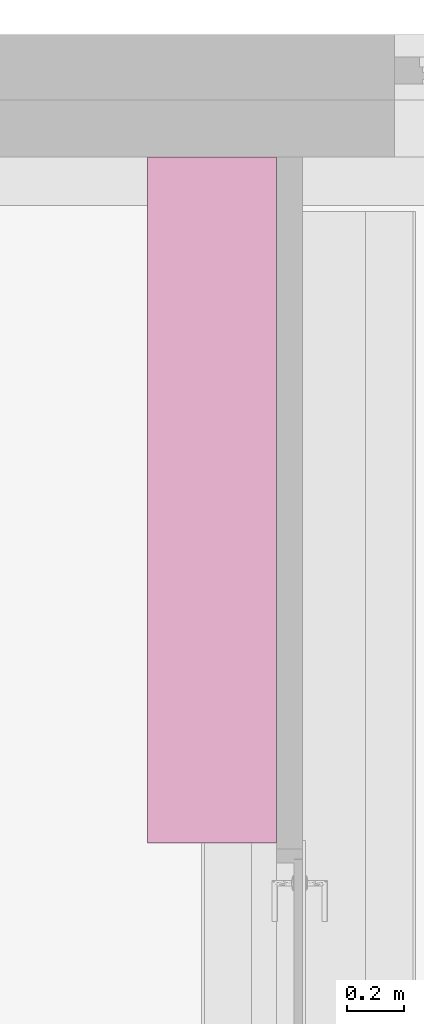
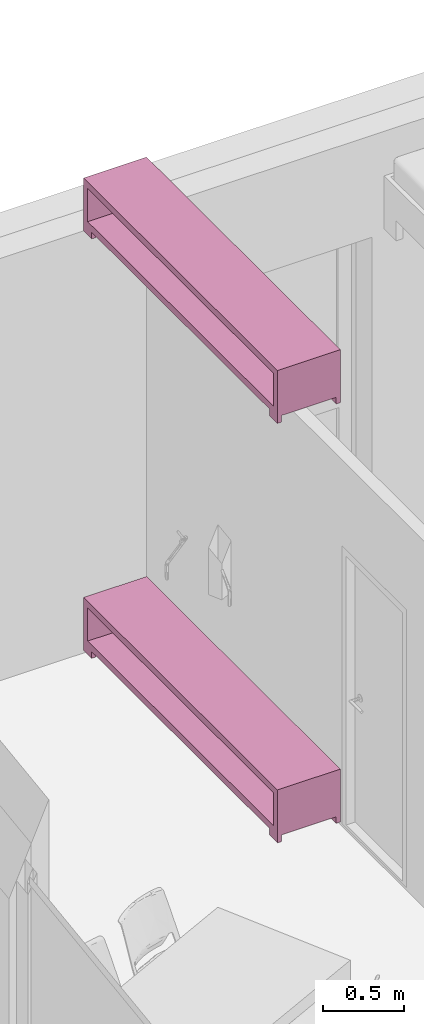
# One storey, part 67 of 125: 2 furnishings.
"""IFC2X3 building model written with IfcOpenShell, lengths in millimetres."""

import ifcopenshell
import ifcopenshell.guid

model = None  # the IFC model being written
_history = None  # IfcOwnerHistory: only IFC2X3 demands one
_inside = {}  # id of a spatial element -> (the spatial element, [elements in it])
_under = {}  # id of a project, library or spatial element -> (it, [spatial elements below it])
_declared = {}  # id of a project -> (the project, [libraries it declares])
_typed = {}  # id of a type object -> (the type object, [elements of that type])
_made_of = {}  # id of a material, layer set ... -> (it, [elements and type objects made of it])


def new_model(schema):
    """Start an empty IFC model of exactly this schema.

    Asked for "IFC4X3", IfcOpenShell would pick the latest addendum, in which some entities
    have other attributes; the version numbers below select the first issue.
    IFC2X3 requires an IfcOwnerHistory on every rooted entity: one is made here for all.
    """
    global model, _history
    if schema == "IFC4X3":
        model = ifcopenshell.file(schema_version=(4, 3, 0, 0))
    else:
        model = ifcopenshell.file(schema=schema)
    _inside.clear()
    _under.clear()
    _declared.clear()
    _typed.clear()
    _made_of.clear()
    _history = None
    if model.schema == "IFC2X3":
        org = make("IfcOrganization", Name="unknown")
        user = make(
            "IfcPersonAndOrganization",
            ThePerson=make("IfcPerson", FamilyName="unknown"),
            TheOrganization=org,
        )
        app = make(
            "IfcApplication",
            ApplicationDeveloper=org,
            Version="unknown",
            ApplicationFullName="unknown",
            ApplicationIdentifier="unknown",
        )
        _history = make(
            "IfcOwnerHistory",
            OwningUser=user,
            OwningApplication=app,
            ChangeAction="ADDED",
            CreationDate=0,
        )
    return model


def make(cls, **values):
    """One entity of the class cls with the attributes given. An attribute that is None is left unset."""
    return model.create_entity(
        cls, **{name: value for name, value in values.items() if value is not None}
    )


def entity(cls, *values):
    """Any entity or typed value of the class cls, its attributes in the order of the schema. None: left unset."""
    e = model.create_entity(cls)
    for i, value in enumerate(values):
        if value is not None:
            e[i] = value
    return e


def rooted(cls, **values):
    """An entity with a GlobalId (a new one), such as an element, a storey or a relation."""
    return make(cls, GlobalId=ifcopenshell.guid.new(), OwnerHistory=_history, **values)


def si_unit(unit_type, name, prefix=None):
    """IfcSIUnit, for example si_unit("LENGTHUNIT", "METRE", prefix="MILLI")."""
    return make("IfcSIUnit", UnitType=unit_type, Prefix=prefix, Name=name)


def converted_unit(unit_type, name, factor, base, dimensions=None, offset=None):
    """IfcConversionBasedUnit, such as the inch: factor (a typed value) times the base unit."""
    return make(
        "IfcConversionBasedUnit"
        if offset is None
        else "IfcConversionBasedUnitWithOffset",
        ConversionOffset=offset,
        Dimensions=None
        if dimensions is None
        else entity("IfcDimensionalExponents", *dimensions),
        UnitType=unit_type,
        Name=name,
        ConversionFactor=make(
            "IfcMeasureWithUnit", ValueComponent=factor, UnitComponent=base
        ),
    )


def assignment(units):
    """IfcUnitAssignment: the units of a project."""
    return None if units is None else make("IfcUnitAssignment", Units=units)


def point(xyz):
    """IfcCartesianPoint."""
    return None if xyz is None else make("IfcCartesianPoint", Coordinates=xyz)


def direction(xyz):
    """IfcDirection."""
    return None if xyz is None else make("IfcDirection", DirectionRatios=xyz)


def frame(location, z_axis=None, x_axis=None):
    """IfcAxis2Placement3D, a coordinate frame: its origin and axes. An axis left out is left unset."""
    return make(
        "IfcAxis2Placement3D",
        Location=point(location),
        Axis=direction(z_axis),
        RefDirection=direction(x_axis),
    )


def frame_2d(location, x_axis=None):
    """IfcAxis2Placement2D, a coordinate frame in the plane: its origin and x axis."""
    return make(
        "IfcAxis2Placement2D", Location=point(location), RefDirection=direction(x_axis)
    )


def origin():
    """The frame at (0, 0, 0) with its axes left unset."""
    return frame((0.0, 0.0, 0.0))


def origin_2d_with_axis():
    """The frame at (0, 0) in the plane with the x axis (1, 0) written out."""
    return frame_2d((0.0, 0.0), x_axis=(1.0, 0.0))


def place(relative_to, where):
    """IfcLocalPlacement: puts the frame where relative to a parent placement (None: the world)."""
    return make(
        "IfcLocalPlacement", PlacementRelTo=relative_to, RelativePlacement=where
    )


def context(
    kind, dimensions, precision=None, world=None, true_north=None, identifier=None
):
    """IfcGeometricRepresentationContext, for example the 3D "Model" context."""
    return make(
        "IfcGeometricRepresentationContext",
        ContextIdentifier=identifier,
        ContextType=kind,
        CoordinateSpaceDimension=dimensions,
        Precision=precision,
        WorldCoordinateSystem=world,
        TrueNorth=true_north,
    )


def subcontext(parent, identifier, kind, view, scale=None):
    """IfcGeometricRepresentationSubContext, for example "Body" below "Model"."""
    return make(
        "IfcGeometricRepresentationSubContext",
        ContextIdentifier=identifier,
        ContextType=kind,
        ParentContext=parent,
        TargetScale=scale,
        TargetView=view,
    )


def project(units=None, contexts=None):
    """IfcProject with its units and contexts."""
    return rooted(
        "IfcProject",
        Name="project",
        RepresentationContexts=contexts,
        UnitsInContext=assignment(units),
    )


def spatial(cls, under=None, at=None, **own):
    """A site, building, storey or space (cls), placed at a placement, below another one or the project."""
    s = rooted(cls, ObjectPlacement=at, **own)
    if under is not None:
        _under.setdefault(under.id(), (under, []))[1].append(s)
    return s


def polyline(points):
    """IfcPolyline through the points."""
    return make("IfcPolyline", Points=[point(p) for p in points])


def profile(cls, at=None, kind="AREA", **sizes):
    """A parametric profile (cls). Its sizes go by their IFC names, for example OverallWidth=200.0."""
    return make(cls, ProfileType=kind, Position=at, **sizes)


def rectangle(**sizes):
    """IfcRectangleProfileDef."""
    return profile("IfcRectangleProfileDef", **sizes)


def outline(outer, holes=None, kind="AREA"):
    """IfcArbitraryClosedProfileDef: a profile drawn as a closed curve; with holes, ...WithVoids."""
    if holes is None:
        return make("IfcArbitraryClosedProfileDef", ProfileType=kind, OuterCurve=outer)
    return make(
        "IfcArbitraryProfileDefWithVoids",
        ProfileType=kind,
        OuterCurve=outer,
        InnerCurves=holes,
    )


def extrude(swept, where, along, depth):
    """IfcExtrudedAreaSolid: the profile swept, set in the frame where, extruded along a direction by depth."""
    return make(
        "IfcExtrudedAreaSolid",
        SweptArea=swept,
        Position=where,
        ExtrudedDirection=direction(along),
        Depth=depth,
    )


def shape(context_of_items, identifier, shape_type, items):
    """IfcShapeRepresentation: the items that make up one representation, for example the "Body"."""
    return make(
        "IfcShapeRepresentation",
        ContextOfItems=context_of_items,
        RepresentationIdentifier=identifier,
        RepresentationType=shape_type,
        Items=items,
    )


def source(mapping_origin, context_of_items, identifier, shape_type, items):
    """IfcRepresentationMap: a shape defined once, which mapped items show again and again."""
    return make(
        "IfcRepresentationMap",
        MappingOrigin=mapping_origin,
        MappedRepresentation=shape(context_of_items, identifier, shape_type, items),
    )


def transform(
    local_origin,
    x_axis=None,
    y_axis=None,
    z_axis=None,
    scale=None,
    scale2=None,
    scale3=None,
    uniform=True,
):
    """IfcCartesianTransformationOperator3D, or its non-uniform kind. x_axis, y_axis, z_axis: its Axis1, 2, 3."""
    if uniform:
        return make(
            "IfcCartesianTransformationOperator3D",
            Axis1=direction(x_axis),
            Axis2=direction(y_axis),
            LocalOrigin=point(local_origin),
            Scale=scale,
            Axis3=direction(z_axis),
        )
    return make(
        "IfcCartesianTransformationOperator3DnonUniform",
        Axis1=direction(x_axis),
        Axis2=direction(y_axis),
        LocalOrigin=point(local_origin),
        Scale=scale,
        Axis3=direction(z_axis),
        Scale2=scale2,
        Scale3=scale3,
    )


def mapped(mapping_source, mapping_target):
    """IfcMappedItem: shows the shape of a source again, moved by a transform."""
    return make(
        "IfcMappedItem", MappingSource=mapping_source, MappingTarget=mapping_target
    )


def material(Name=None, Category=None):
    """IfcMaterial."""
    return make("IfcMaterial", Name=Name, Category=Category)


def made_of(thing, what):
    """Note that an element or type object is made of a material, layer set ...; save() writes the relation."""
    if what is not None:
        _made_of.setdefault(what.id(), (what, []))[1].append(thing)
    return thing


def type_object(cls, material=None, **own):
    """A type object (cls), such as IfcWallType, which elements share."""
    return made_of(rooted(cls, **own), material)


def type_shapes(of_type, sources):
    """Give a type object the sources (RepresentationMaps) that its elements show as mapped items."""
    of_type.RepresentationMaps = sources


def element(
    cls,
    number,
    at=None,
    inside=None,
    cuts=None,
    type_object=None,
    material=None,
    context=None,
    identifier="Body",
    shape_type=None,
    held_by="IfcProductDefinitionShape",
    body=None,
    shapes=None,
    **own,
):
    """One element of the class cls, such as IfcWall. Its Tag is "e" and its number.

    at: its placement. inside: the storey or other place that contains it. cuts: it is an
    opening in that element (IfcRelVoidsElement). A single representation is given by context,
    identifier, shape_type and body (its items); several are given by shapes. held_by: the class
    of the entity that holds the representations. save() writes the other relations.
    """
    e = rooted(cls, Tag="e%d" % number, ObjectPlacement=at, **own)
    if body is not None:
        shapes = [shape(context, identifier, shape_type, body)]
    if shapes is not None:
        e.Representation = make(held_by, Representations=shapes)
    if inside is not None:
        _inside.setdefault(inside.id(), (inside, []))[1].append(e)
    if cuts is not None:
        rooted(
            "IfcRelVoidsElement", RelatingBuildingElement=cuts, RelatedOpeningElement=e
        )
    if type_object is not None:
        _typed.setdefault(type_object.id(), (type_object, []))[1].append(e)
    return made_of(e, material)


def aggregate(whole, parts):
    """IfcRelAggregates: a whole, such as a stair, and the parts it consists of."""
    return rooted("IfcRelAggregates", RelatingObject=whole, RelatedObjects=parts)


def save(model, path):
    """Write the relations noted so far, then the file.

    IfcRelAggregates (storeys below a building ...), IfcRelContainedInSpatialStructure (elements
    in a storey), IfcRelDefinesByType, IfcRelAssociatesMaterial and IfcRelDeclares: one each for
    every whole, place, type object, material and project.
    """
    for whole, parts in _under.values():
        aggregate(whole, parts)
    for where, things in _inside.values():
        rooted(
            "IfcRelContainedInSpatialStructure",
            RelatedElements=things,
            RelatingStructure=where,
        )
    for kind, things in _typed.values():
        rooted("IfcRelDefinesByType", RelatedObjects=things, RelatingType=kind)
    for what, things in _made_of.values():
        rooted("IfcRelAssociatesMaterial", RelatedObjects=things, RelatingMaterial=what)
    for by, libraries in _declared.values():
        rooted("IfcRelDeclares", RelatingContext=by, RelatedDefinitions=libraries)
    model.write(path)


model = new_model("IFC2X3")

# Units and contexts
model_context = context("Model", 3, precision=0.01, world=origin(), true_north=direction((6.123233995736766e-17, 1.0)))
plan_context = context("Plan", 3, precision=0.01, world=origin(), true_north=direction((6.123233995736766e-17, 1.0)))
body_context = subcontext(model_context, "Body", "Model", "MODEL_VIEW")
ifc_project = project(units=[si_unit("LENGTHUNIT", "METRE", prefix="MILLI"), converted_unit("PLANEANGLEUNIT", "DEGREE", entity("IfcPlaneAngleMeasure", 0.017453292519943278), si_unit("PLANEANGLEUNIT", "RADIAN"), dimensions=[0, 0, 0, 0, 0, 0, 0]), si_unit("AREAUNIT", "SQUARE_METRE")], contexts=[model_context, plan_context])

# Site, building, storey, space
site_placement = place(None, origin())
site = spatial("IfcSite", under=ifc_project, at=site_placement, Name="Default", CompositionType="ELEMENT")
building_placement = place(site_placement, origin())
building = spatial("IfcBuilding", under=site, at=building_placement, CompositionType="ELEMENT")
storey_placement = place(building_placement, frame((0.0, 0.0, 3125.0)))
storey = spatial("IfcBuildingStorey", under=building, at=storey_placement, Name="2K", CompositionType="ELEMENT", Elevation=3125.0)
space_placement = place(storey_placement, origin())
space = spatial("IfcSpace", under=storey, at=space_placement, Name="2-1.2", CompositionType="ELEMENT", InteriorOrExteriorSpace="INTERNAL")

# Furnishings
ifc_material = material(Name="<Unnamed>")
furniture_type = type_object("IfcFurnitureType", Name="HR_Furniture_TV-stand_Generic_v2016-05-13:Default", AssemblyPlace="NOTDEFINED", material=ifc_material)
shared_shape = source(origin(), body_context, "Body", "SweptSolid", [
    extrude(rectangle(XDim=99.99999999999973, YDim=29.999999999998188, at=origin_2d_with_axis()), frame((1150.0, 15.0, 0.0), z_axis=(0.0, 0.0, 1.0), x_axis=(-1.0, 0.0, 0.0)), (0.0, 0.0, 1.0), 49.99999999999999),
    extrude(rectangle(XDim=30.000000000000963, YDim=99.99999999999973, at=frame_2d((-3.375077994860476e-14, 0.0), x_axis=(1.0, 0.0))), frame((1150.0, 435.0, 0.0), z_axis=(0.0, 0.0, 1.0), x_axis=(0.0, 1.0, 0.0)), (0.0, 0.0, 1.0), 49.99999999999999),
    extrude(rectangle(XDim=30.000000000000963, YDim=99.99999999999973, at=frame_2d((-3.375077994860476e-14, 0.0), x_axis=(1.0, 0.0))), frame((-1150.0, 435.0, 0.0), z_axis=(0.0, 0.0, 1.0), x_axis=(0.0, 1.0, 0.0)), (0.0, 0.0, 1.0), 49.99999999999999),
    extrude(rectangle(XDim=99.99999999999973, YDim=29.999999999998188, at=origin_2d_with_axis()), frame((-1150.0, 15.0, 0.0), z_axis=(0.0, 0.0, 1.0), x_axis=(-1.0, 0.0, 0.0)), (0.0, 0.0, 1.0), 49.99999999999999),
    extrude(outline(polyline([(-175.0, -1200.0), (175.0, -1200.0), (175.0, 1200.0), (-175.0, 1200.0), (-175.0, -1200.0)]), holes=[polyline([(-125.0, -1150.0), (-125.0, 1150.0), (125.0, 1150.0), (125.0, -1150.0), (-125.0, -1150.0)])]), frame((0.0, 0.0, 225.0), z_axis=(0.0, 1.0, 0.0), x_axis=(0.0, 0.0, -1.0)), (0.0, 0.0, 1.0), 449.9999999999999),
])
type_shapes(furniture_type, [shared_shape])
for number, where, z_axis, x_axis in (
    (1, (-188.0100000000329, 14200.0, 0.0), (0.0, 0.0, 1.0), (0.0, 1.0, 0.0)),
    (2, (-188.0100000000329, 14200.0, 3170.0), (0.0, 0.0, 1.0), (0.0, 1.0, 0.0)),
):
    element("IfcFurnishingElement", number, at=place(space_placement, frame(where, z_axis=z_axis, x_axis=x_axis)), inside=space, type_object=furniture_type, material=ifc_material, Name="HR_Furniture_TV-stand_Generic_v2016-05-13:Default", ObjectType="HR_Furniture_TV-stand_Generic_v2016-05-13:Default", context=body_context, shape_type="MappedRepresentation", body=[
        mapped(shared_shape, transform((0.0, 0.0, 0.0), scale=1.0)),
    ])

save(model, "model.ifc")
